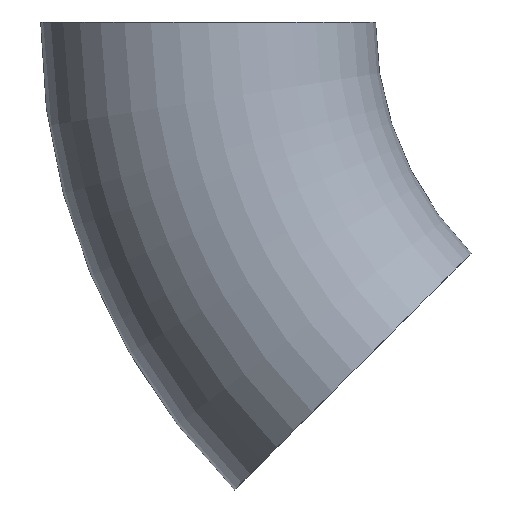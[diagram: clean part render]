
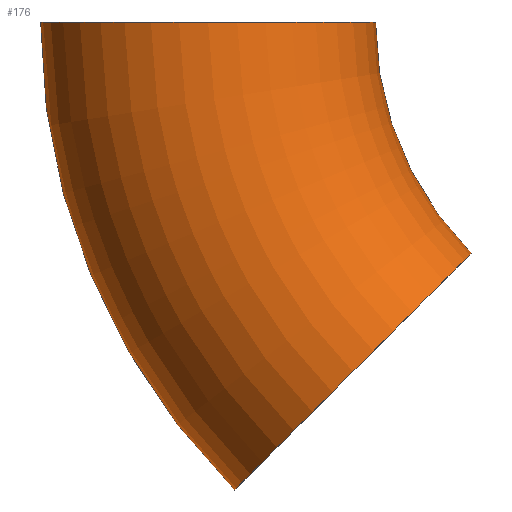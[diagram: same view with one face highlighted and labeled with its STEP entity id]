
A CAD part, front view. The second image highlights one B-rep face of the part: STEP entity #176.
In plain terms, the highlighted toroidal (fillet/blend) face has major radius 375 mm and minor radius 127 mm.
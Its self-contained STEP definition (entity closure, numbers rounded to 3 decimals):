
#18 = ORIENTED_EDGE ( 'NONE', *, *, #27, .T. ) ;
#20 = DIRECTION ( 'NONE',  ( 0.707, 0., 0.707 ) ) ;
#21 = AXIS2_PLACEMENT_3D ( 'NONE', #184, #198, #83 ) ;
#27 = EDGE_CURVE ( 'NONE', #96, #214, #58, .T. ) ;
#43 = DIRECTION ( 'NONE',  ( 0., 1., 0. ) ) ;
#52 = VERTEX_POINT ( 'NONE', #117 ) ;
#58 = CIRCLE ( 'NONE', #116, 127. ) ;
#70 = AXIS2_PLACEMENT_3D ( 'NONE', #225, #190, #90 ) ;
#77 = EDGE_CURVE ( 'NONE', #96, #52, #212, .T. ) ;
#78 = CARTESIAN_POINT ( 'NONE',  ( -265.165, 0., -265.165 ) ) ;
#79 = FACE_OUTER_BOUND ( 'NONE', #103, .T. ) ;
#81 = AXIS2_PLACEMENT_3D ( 'NONE', #132, #43, #226 ) ;
#83 = DIRECTION ( 'NONE',  ( 0., 0., 1. ) ) ;
#90 = DIRECTION ( 'NONE',  ( 0., 0., 1. ) ) ;
#96 = VERTEX_POINT ( 'NONE', #159 ) ;
#99 = CARTESIAN_POINT ( 'NONE',  ( -375., 0., 0. ) ) ;
#103 = EDGE_LOOP ( 'NONE', ( #119, #18, #120, #233 ) ) ;
#109 = CARTESIAN_POINT ( 'NONE',  ( -175.362, 0., -175.362 ) ) ;
#116 = AXIS2_PLACEMENT_3D ( 'NONE', #78, #139, #20 ) ;
#117 = CARTESIAN_POINT ( 'NONE',  ( -502., 0., 0. ) ) ;
#119 = ORIENTED_EDGE ( 'NONE', *, *, #77, .F. ) ;
#120 = ORIENTED_EDGE ( 'NONE', *, *, #223, .T. ) ;
#122 = CARTESIAN_POINT ( 'NONE',  ( -248., 0., 0. ) ) ;
#125 = CIRCLE ( 'NONE', #192, 127. ) ;
#132 = CARTESIAN_POINT ( 'NONE',  ( 0., 0., 0. ) ) ;
#139 = DIRECTION ( 'NONE',  ( -0.707, 0., 0.707 ) ) ;
#152 = EDGE_CURVE ( 'NONE', #52, #160, #125, .T. ) ;
#153 = DIRECTION ( 'NONE',  ( 0., 0., 1. ) ) ;
#156 = TOROIDAL_SURFACE ( 'NONE', #81, 375., 127. ) ;
#159 = CARTESIAN_POINT ( 'NONE',  ( -354.968, 0., -354.968 ) ) ;
#160 = VERTEX_POINT ( 'NONE', #122 ) ;
#176 = ADVANCED_FACE ( 'NONE', ( #79 ), #156, .T. ) ;
#184 = CARTESIAN_POINT ( 'NONE',  ( 0., 0., 0. ) ) ;
#190 = DIRECTION ( 'NONE',  ( 0., 1., 0. ) ) ;
#192 = AXIS2_PLACEMENT_3D ( 'NONE', #99, #153, #252 ) ;
#194 = CIRCLE ( 'NONE', #70, 248. ) ;
#198 = DIRECTION ( 'NONE',  ( 0., 1., 0. ) ) ;
#212 = CIRCLE ( 'NONE', #21, 502. ) ;
#214 = VERTEX_POINT ( 'NONE', #109 ) ;
#223 = EDGE_CURVE ( 'NONE', #214, #160, #194, .T. ) ;
#225 = CARTESIAN_POINT ( 'NONE',  ( 0., 0., 0. ) ) ;
#226 = DIRECTION ( 'NONE',  ( 0., 0., 1. ) ) ;
#233 = ORIENTED_EDGE ( 'NONE', *, *, #152, .F. ) ;
#252 = DIRECTION ( 'NONE',  ( 1., 0., 0. ) ) ;
